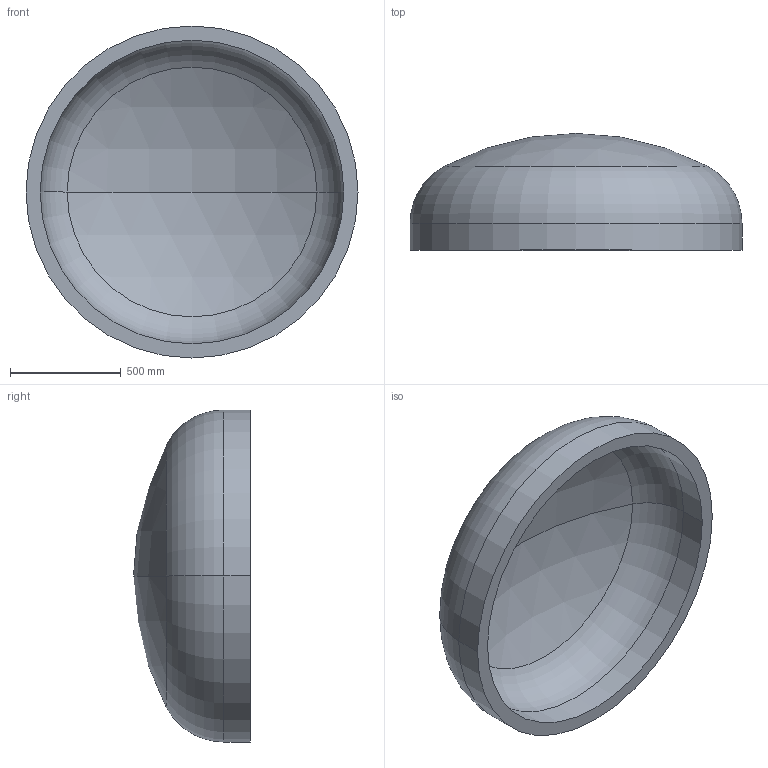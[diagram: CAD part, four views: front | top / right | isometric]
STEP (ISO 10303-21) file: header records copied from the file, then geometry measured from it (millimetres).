
FILE_DESCRIPTION (( 'STEP AP203' ), '1' );
FILE_NAME ('DIN 28013 Korbbogenform_-_Boden DIN 28013 - 1500 x 120 - I - s=64.step', '2016-07-01T10:51:27', ( '' ), ( '' ), 'SwSTEP 2.0', 'SolidWorks 2013', '' );
FILE_SCHEMA (( 'CONFIG_CONTROL_DESIGN' ));
Length unit declared in the file: millimetre
Products named in the file (1): DIN 28013 Korbbogenform_-_Boden DIN 28013 - 1500 x 120 - I - s=64
Bounding box: 1500 x 527.87 x 1500 mm (x, y, z)
Volume: 182748369.4 mm3; surface area: 6008188.6 mm2
Topology: 1 solids, 1 shells, 13 faces, 24 edges, 14 vertices
Faces by surface type: torus 4, cylinder 4, sphere 4, plane 1
Entity records: 407 total; most frequent: DIRECTION 72, CARTESIAN_POINT 52, ORIENTED_EDGE 48, AXIS2_PLACEMENT_3D 34, EDGE_CURVE 24, CIRCLE 20, VERTEX_POINT 14, EDGE_LOOP 14
